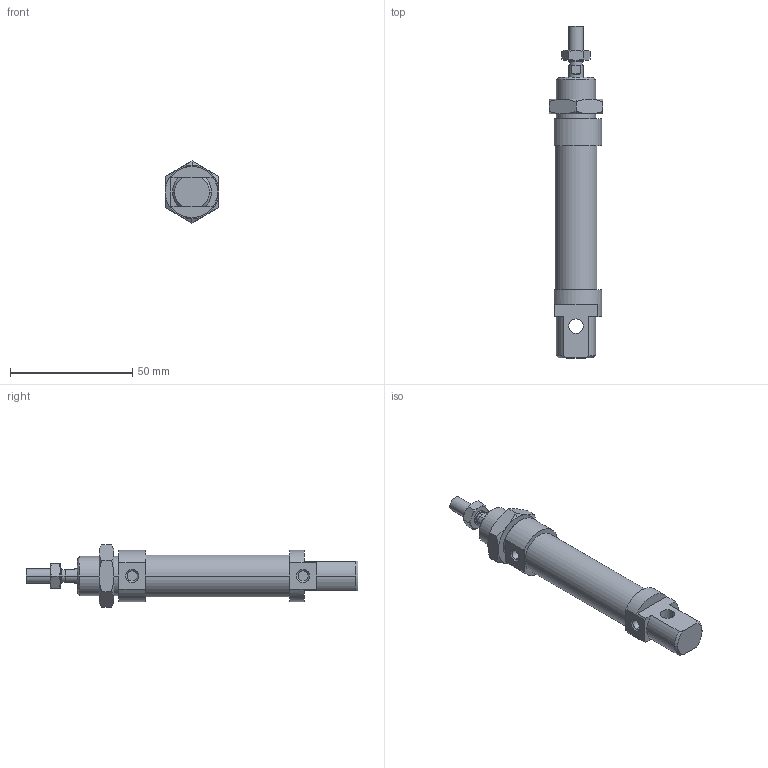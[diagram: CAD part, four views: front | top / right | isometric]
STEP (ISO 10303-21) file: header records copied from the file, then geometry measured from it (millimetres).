
FILE_DESCRIPTION((''),'2;1');
FILE_NAME('I:\DOC-EDP\Lib-3d\1200\CILINDRI\1280\1280_16_0025.stp','2003-04-07T14:59:00',('maffial1'),(''),'Autodesk Inventor (R) 6.0','Autodesk Inventor (R) 6.0','');
FILE_SCHEMA(('AUTOMOTIVE_DESIGN { 1 0 10303 214 1 1 1 1 }'));
Length unit declared in the file: millimetre
Products named in the file (5): 1280_16_0025; S1280_16_25; 1200_16_05; 1200_16_06; C1280_16_25
Assembly tree (4 placements, depth 2):
  1280_16_0025
    S1280_16_25
    1200_16_05
    1200_16_06
    C1280_16_25
Bounding box: 22 x 136 x 25.4 mm (x, y, z)
Volume: 28669.7 mm3; surface area: 11340.2 mm2
Topology: 4 solids, 4 shells, 121 faces, 268 edges, 162 vertices
Faces by surface type: cone 40, plane 39, cylinder 22, bspline 20
Entity records: 3653 total; most frequent: CARTESIAN_POINT 976, DIRECTION 556, ORIENTED_EDGE 536, EDGE_CURVE 268, AXIS2_PLACEMENT_3D 230, VERTEX_POINT 162, EDGE_LOOP 134, FACE_OUTER_BOUND 121
